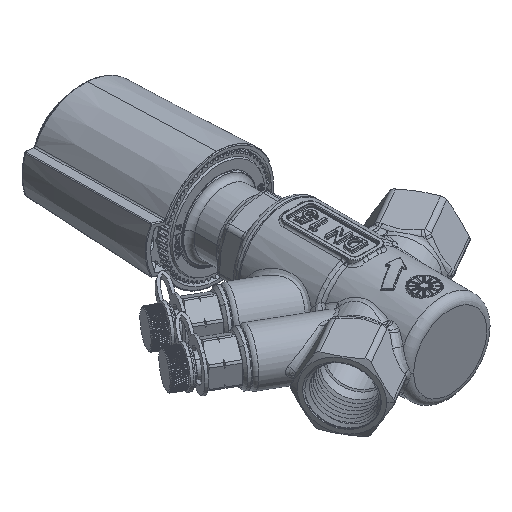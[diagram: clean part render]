
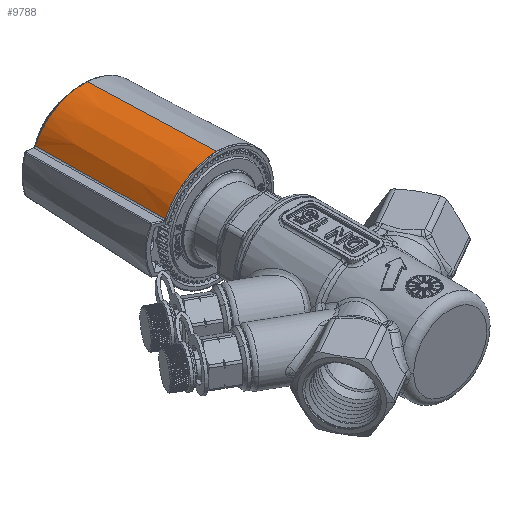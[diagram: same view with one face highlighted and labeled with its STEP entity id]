
A CAD part, isometric view. The second image highlights one B-rep face of the part: STEP entity #9788.
In plain terms, the highlighted conical face has half-angle 2 degrees and reference radius 22.038 mm.
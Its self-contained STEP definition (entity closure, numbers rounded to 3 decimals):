
#1099 = CARTESIAN_POINT ( 'NONE',  ( -14.138, 83.407, 16.591 ) ) ;
#3164 = CARTESIAN_POINT ( 'NONE',  ( -12.329, 83.283, 17.756 ) ) ;
#3903 = CARTESIAN_POINT ( 'NONE',  ( -22.441, 32.66, 9.382 ) ) ;
#7298 = CARTESIAN_POINT ( 'NONE',  ( -21.259, 83.898, 7.622 ) ) ;
#9788 = ADVANCED_FACE ( 'NONE', ( #184128 ), #325722, .T. ) ;
#23228 = ORIENTED_EDGE ( 'NONE', *, *, #302347, .T. ) ;
#28054 = EDGE_CURVE ( 'NONE', #252385, #180192, #116224, .T. ) ;
#30584 = CARTESIAN_POINT ( 'NONE',  ( -17.082, 83.61, 14.101 ) ) ;
#32645 = CARTESIAN_POINT ( 'NONE',  ( -10.983, 83.19, 18.42 ) ) ;
#34701 = CARTESIAN_POINT ( 'NONE',  ( -5.52, 82.814, 20.067 ) ) ;
#36774 = CARTESIAN_POINT ( 'NONE',  ( -13.15, 83.339, 17.268 ) ) ;
#37720 = VERTEX_POINT ( 'NONE', #149657 ) ;
#38826 = CARTESIAN_POINT ( 'NONE',  ( -9.127, 83.062, 19.164 ) ) ;
#43382 = CARTESIAN_POINT ( 'NONE',  ( -21.649, 67.496, 8.185 ) ) ;
#61397 = CARTESIAN_POINT ( 'NONE',  ( -21.259, 83.898, 7.622 ) ) ;
#61818 = CARTESIAN_POINT ( 'NONE',  ( -2.5, 32.66, 22.038 ) ) ;
#62147 = CARTESIAN_POINT ( 'NONE',  ( -9.475, 83.086, 19.042 ) ) ;
#64202 = CARTESIAN_POINT ( 'NONE',  ( -3.339, 82.663, 20.274 ) ) ;
#66252 = CARTESIAN_POINT ( 'NONE',  ( -14.003, 83.398, 16.685 ) ) ;
#70398 = CARTESIAN_POINT ( 'NONE',  ( -14.097, 83.405, 16.619 ) ) ;
#72759 = ORIENTED_EDGE ( 'NONE', *, *, #398955, .T. ) ;
#93668 = CARTESIAN_POINT ( 'NONE',  ( -8.909, 83.047, 19.239 ) ) ;
#97795 = CARTESIAN_POINT ( 'NONE',  ( -3.742, 82.691, 20.255 ) ) ;
#101937 = CARTESIAN_POINT ( 'NONE',  ( -13.945, 83.394, 16.725 ) ) ;
#116224 = CIRCLE ( 'NONE', #404765, 22.038 ) ;
#121031 = DIRECTION ( 'NONE',  ( 0., 0., 1. ) ) ;
#129374 = CARTESIAN_POINT ( 'NONE',  ( -15.95, 83.532, 15.161 ) ) ;
#131454 = CARTESIAN_POINT ( 'NONE',  ( -2.671, 82.617, 20.293 ) ) ;
#132720 = ORIENTED_EDGE ( 'NONE', *, *, #28054, .T. ) ;
#149657 = CARTESIAN_POINT ( 'NONE',  ( -2.5, 82.606, 20.293 ) ) ;
#158733 = EDGE_CURVE ( 'NONE', #37720, #180192, #232870, .T. ) ;
#158851 = CARTESIAN_POINT ( 'NONE',  ( -3.242, 82.657, 20.278 ) ) ;
#160898 = CARTESIAN_POINT ( 'NONE',  ( -14.083, 83.404, 16.629 ) ) ;
#162953 = CARTESIAN_POINT ( 'NONE',  ( -3.18, 82.653, 20.28 ) ) ;
#163314 = CARTESIAN_POINT ( 'NONE',  ( -22.441, 32.66, 9.382 ) ) ;
#163608 = DIRECTION ( 'NONE',  ( 1., 0., 0. ) ) ;
#165027 = CARTESIAN_POINT ( 'NONE',  ( -4.114, 82.717, 20.227 ) ) ;
#167070 = CARTESIAN_POINT ( 'NONE',  ( -10.515, 83.158, 18.63 ) ) ;
#180192 = VERTEX_POINT ( 'NONE', #61818 ) ;
#184128 = FACE_OUTER_BOUND ( 'NONE', #220991, .T. ) ;
#190343 = CARTESIAN_POINT ( 'NONE',  ( -14.274, 83.417, 16.494 ) ) ;
#192403 = CARTESIAN_POINT ( 'NONE',  ( -8.919, 83.048, 19.235 ) ) ;
#194468 = CARTESIAN_POINT ( 'NONE',  ( -19.618, 83.784, 11.005 ) ) ;
#196526 = CARTESIAN_POINT ( 'NONE',  ( -8.816, 83.041, 19.27 ) ) ;
#198600 = CARTESIAN_POINT ( 'NONE',  ( -9.015, 83.055, 19.203 ) ) ;
#205541 = CARTESIAN_POINT ( 'NONE',  ( -2.5, 32.66, 22.038 ) ) ;
#213552 = CARTESIAN_POINT ( 'NONE',  ( -2.5, 32.66, 0. ) ) ;
#220991 = EDGE_LOOP ( 'NONE', ( #347911, #72759, #23228, #132720 ) ) ;
#221858 = CARTESIAN_POINT ( 'NONE',  ( -2.845, 82.629, 20.29 ) ) ;
#224798 = VERTEX_POINT ( 'NONE', #61397 ) ;
#226525 = VECTOR ( 'NONE', #361061, 1000. ) ;
#228378 = CARTESIAN_POINT ( 'NONE',  ( -21.259, 83.898, 7.622 ) ) ;
#232870 = LINE ( 'NONE', #205541, #226525 ) ;
#252385 = VERTEX_POINT ( 'NONE', #3903 ) ;
#257478 = CARTESIAN_POINT ( 'NONE',  ( -4.978, 82.776, 20.144 ) ) ;
#259539 = CARTESIAN_POINT ( 'NONE',  ( -14.94, 83.463, 15.998 ) ) ;
#269159 = B_SPLINE_CURVE_WITH_KNOTS ( 'NONE', 3,
 ( #228378, #43382, #295573, #163314 ),
 .UNSPECIFIED., .F., .F.,
 ( 4, 4 ),
 ( 0., 1. ),
 .UNSPECIFIED. ) ;
#278695 = AXIS2_PLACEMENT_3D ( 'NONE', #213552, #345838, #121031 ) ;
#286958 = CARTESIAN_POINT ( 'NONE',  ( -3.203, 82.654, 20.28 ) ) ;
#289011 = CARTESIAN_POINT ( 'NONE',  ( -8.727, 83.035, 19.299 ) ) ;
#291082 = CARTESIAN_POINT ( 'NONE',  ( -8.959, 83.051, 19.222 ) ) ;
#293149 = CARTESIAN_POINT ( 'NONE',  ( -14.06, 83.402, 16.645 ) ) ;
#295214 = CARTESIAN_POINT ( 'NONE',  ( -7.038, 82.918, 19.795 ) ) ;
#295573 = CARTESIAN_POINT ( 'NONE',  ( -22.043, 50.417, 8.771 ) ) ;
#302347 = EDGE_CURVE ( 'NONE', #224798, #252385, #269159, .T. ) ;
#318492 = CARTESIAN_POINT ( 'NONE',  ( -14.625, 83.441, 16.24 ) ) ;
#320531 = CARTESIAN_POINT ( 'NONE',  ( -9.785, 83.108, 18.924 ) ) ;
#324662 = CARTESIAN_POINT ( 'NONE',  ( -2.5, 82.606, 20.293 ) ) ;
#325722 = CONICAL_SURFACE ( 'NONE', #278695, 22.038, 0.035 ) ;
#326724 = CARTESIAN_POINT ( 'NONE',  ( -8.935, 83.049, 19.23 ) ) ;
#345838 = DIRECTION ( 'NONE',  ( 0., -1., 0. ) ) ;
#347911 = ORIENTED_EDGE ( 'NONE', *, *, #158733, .F. ) ;
#350013 = CARTESIAN_POINT ( 'NONE',  ( -7.906, 82.978, 19.562 ) ) ;
#352084 = CARTESIAN_POINT ( 'NONE',  ( -3.067, 82.645, 20.284 ) ) ;
#354142 = CARTESIAN_POINT ( 'NONE',  ( -17.769, 83.657, 13.349 ) ) ;
#356840 = DIRECTION ( 'NONE',  ( 0., 1., 0. ) ) ;
#361061 = DIRECTION ( 'NONE',  ( 0., -0.999, 0.035 ) ) ;
#383622 = CARTESIAN_POINT ( 'NONE',  ( -15.556, 83.505, 15.504 ) ) ;
#385684 = CARTESIAN_POINT ( 'NONE',  ( -20.57, 83.851, 9.323 ) ) ;
#398955 = EDGE_CURVE ( 'NONE', #37720, #224798, #399112, .T. ) ;
#399112 = B_SPLINE_CURVE_WITH_KNOTS ( 'NONE', 3,
 ( #324662, #131454, #221858, #352084, #415154, #162953, #286958, #158851, #64202, #97795, #165027, #257478, #34701, #295214, #350013, #289011, #196526, #93668, #192403, #326724, #291082, #198600, #38826, #62147, #320531, #167070, #32645, #3164, #36774, #101937, #66252, #293149, #160898, #70398, #1099, #190343, #318492, #259539, #383622, #129374, #30584, #354142, #194468, #385684, #7298 ),
 .UNSPECIFIED., .F., .F.,
 ( 4, 2, 2, 2, 1, 1, 2, 2, 2, 2, 2, 1, 1, 1, 1, 2, 2, 2, 1, 2, 2, 1, 1, 2, 2, 2, 4 ),
 ( 0.489, 0.497, 0.499, 0.5, 0.501, 0.505, 0.521, 0.553, 0.617, 0.625, 0.625, 0.626, 0.627, 0.629, 0.633, 0.649, 0.681, 0.745, 0.749, 0.75, 0.751, 0.753, 0.761, 0.777, 0.808, 0.872, 1. ),
 .UNSPECIFIED. ) ;
#401383 = CARTESIAN_POINT ( 'NONE',  ( -2.5, 32.66, 0. ) ) ;
#404765 = AXIS2_PLACEMENT_3D ( 'NONE', #401383, #356840, #163608 ) ;
#415154 = CARTESIAN_POINT ( 'NONE',  ( -3.112, 82.648, 20.283 ) ) ;
